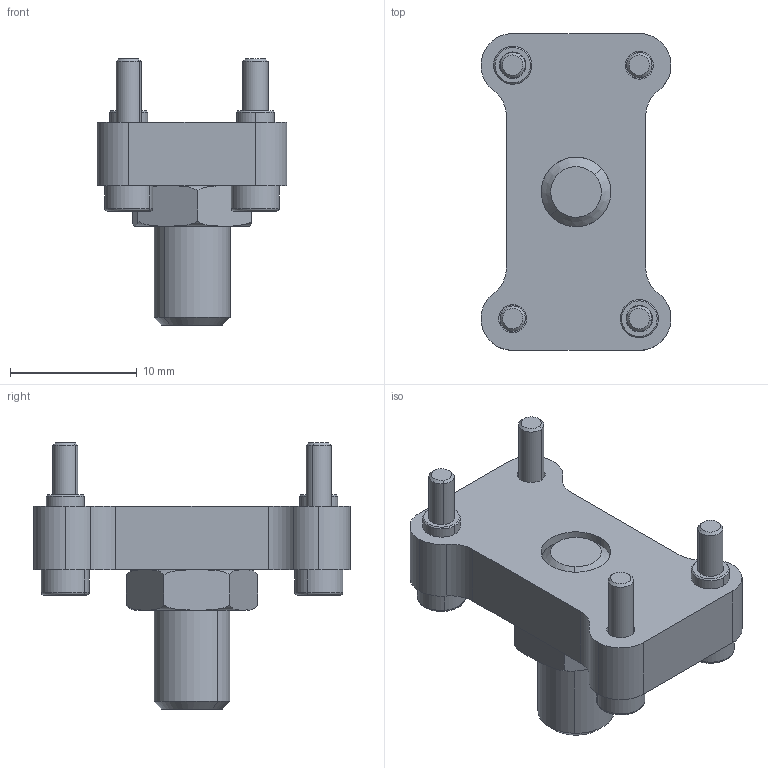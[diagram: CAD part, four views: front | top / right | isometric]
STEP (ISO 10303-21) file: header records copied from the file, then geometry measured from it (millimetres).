
FILE_DESCRIPTION (( 'STEP AP203' ), '1' );
FILE_NAME ('75016001.STEP', '2019-01-07T12:21:35', ( '' ), ( '' ), 'SwSTEP 2.0', 'SolidWorks 2015', '' );
FILE_SCHEMA (( 'CONFIG_CONTROL_DESIGN' ));
Length unit declared in the file: millimetre
Products named in the file (1): 75016001
Bounding box: 14.99 x 25 x 21 mm (x, y, z)
Volume: 2086.8 mm3; surface area: 1829.2 mm2
Topology: 1 solids, 3 shells, 178 faces, 416 edges, 258 vertices
Faces by surface type: plane 88, cylinder 50, cone 28, torus 12
Entity records: 5311 total; most frequent: CARTESIAN_POINT 1081, DIRECTION 924, ORIENTED_EDGE 816, EDGE_CURVE 408, AXIS2_PLACEMENT_3D 357, VERTEX_POINT 258, LINE 210, VECTOR 210
